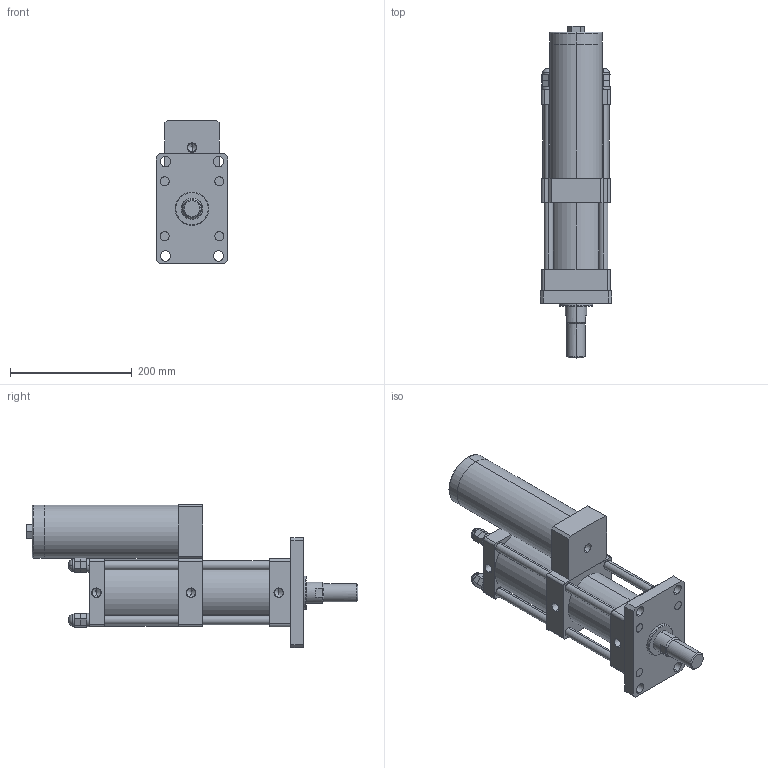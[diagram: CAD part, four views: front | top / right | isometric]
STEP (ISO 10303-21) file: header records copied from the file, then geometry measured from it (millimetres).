
FILE_DESCRIPTION (( 'STEP AP203' ), '1' );
FILE_NAME ('MPT-80-50-5-5T.STEP', '2016-03-10T09:18:27', ( 'WIN' ), ( '' ), 'SwSTEP 2.0', 'SolidWorks 2014', '' );
FILE_SCHEMA (( 'CONFIG_CONTROL_DESIGN' ));
Length unit declared in the file: millimetre
Products named in the file (1): MPT-80-50-5-5T
Bounding box: 118 x 545 x 235 mm (x, y, z)
Volume: 4316249.2 mm3; surface area: 558683.8 mm2
Topology: 20 solids, 20 shells, 390 faces, 954 edges, 554 vertices
Faces by surface type: plane 183, cylinder 84, torus 48, bspline 48, cone 27
Entity records: 12526 total; most frequent: CARTESIAN_POINT 3675, DIRECTION 1859, ORIENTED_EDGE 1776, EDGE_CURVE 888, AXIS2_PLACEMENT_3D 682, VERTEX_POINT 554, LINE 495, VECTOR 495
